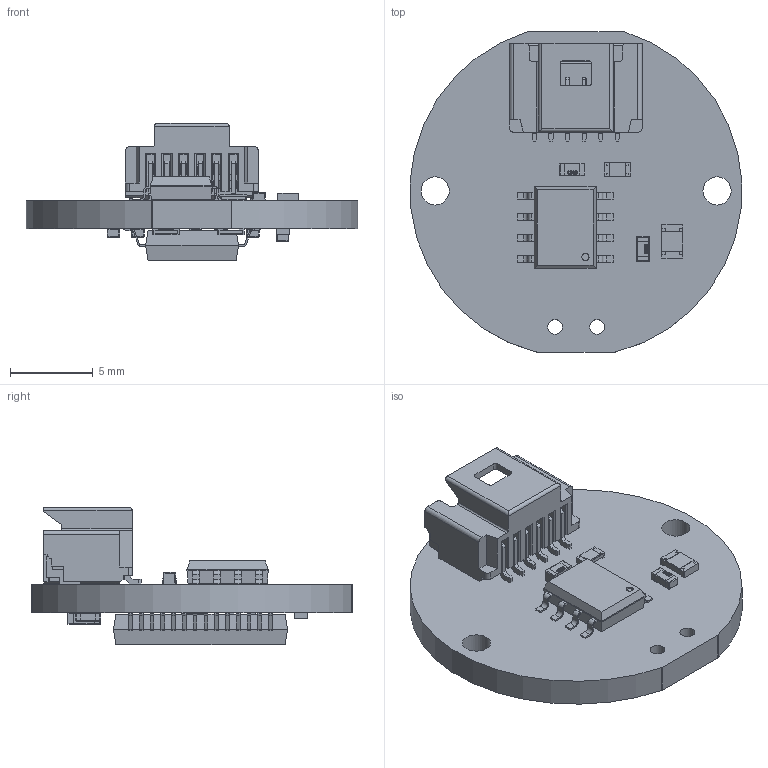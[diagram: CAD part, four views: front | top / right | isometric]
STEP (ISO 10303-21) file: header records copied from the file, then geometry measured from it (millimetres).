
FILE_DESCRIPTION(('Open CASCADE Model'),'2;1');
FILE_NAME('Open CASCADE Shape Model','2017-09-08T12:49:55',('Author'),( 'Open CASCADE'),'Open CASCADE STEP processor 6.8','Open CASCADE 6.8' ,'Unknown');
FILE_SCHEMA(('AUTOMOTIVE_DESIGN { 1 0 10303 214 1 1 1 1 }'));
Length unit declared in the file: millimetre
Products named in the file (29): PCB; Board; R1; SW3dPS-R0603; C8; C0603; IC2; SW3DPS-SO-8-DEFAULT; C6; C0603_853146355; C5; IC1; SW3dPS-SSOP-28; K1; 5015680607; Open CASCADE STEP translator 6.8 1.8.1.1; Open CASCADE STEP translator 6.8 1.8.1.2; R3; R2; L1; SW3dPS-R0805; C4; C3; C2; C1; C0805; C7; C9; R4
Assembly tree (37 placements, depth 4):
  PCB
    Board
    R1
      SW3dPS-R0603
    C8
      C0603
    IC2
      SW3DPS-SO-8-DEFAULT
    C6
      C0603_853146355
    C5
      C0603_853146355
    IC1
      SW3dPS-SSOP-28
    K1
      5015680607
        Open CASCADE STEP translator 6.8 1.8.1.1
        Open CASCADE STEP translator 6.8 1.8.1.2
    R3
      SW3dPS-R0603
    R2
      SW3dPS-R0603
    L1
      SW3dPS-R0805
    C4
      C0603_853146355
    C3
      C0603_853146355
    C2
      C0603_853146355
    C1
      C0805
    C7
      C0603_853146355
    C9
      C0603
    R4
      SW3dPS-R0603
Bounding box: 19.99 x 19.3 x 8.29 mm (x, y, z)
Volume: 733.3 mm3; surface area: 1592 mm2
Topology: 65 solids, 65 shells, 2462 faces, 6418 edges, 4130 vertices
Faces by surface type: plane 1420, bspline 541, cylinder 449, cone 52
Full cylindrical faces by diameter (mm): 0.9 x2, 1.7 x2
Entity records: 168694 total; most frequent: CARTESIAN_POINT 81395, DIRECTION 13800, LINE 9209, VECTOR 9209, ORIENTED_EDGE 8628, PCURVE 8628, DEFINITIONAL_REPRESENTATION 8628, EDGE_CURVE 4314
